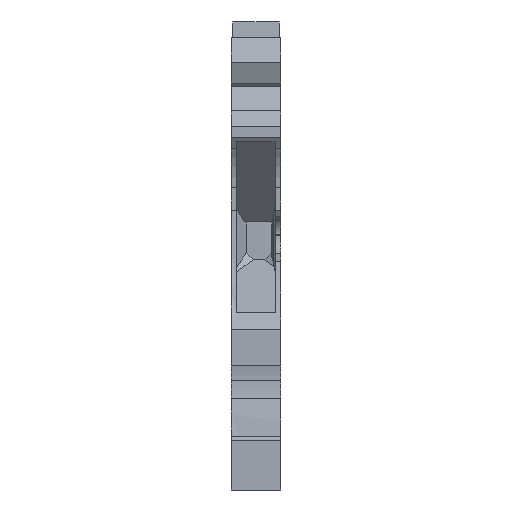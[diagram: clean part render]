
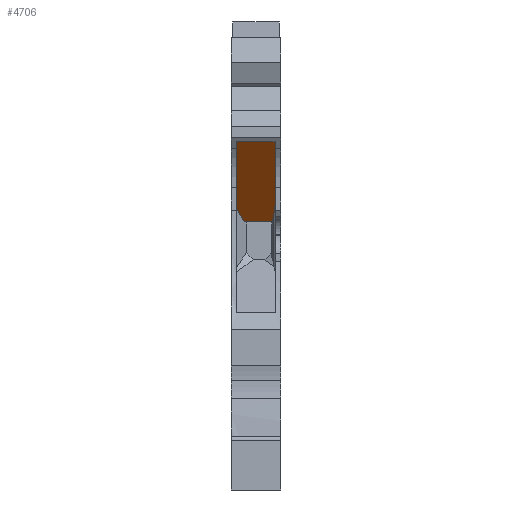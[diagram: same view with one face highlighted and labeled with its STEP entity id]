
A CAD part, front view. The second image highlights one B-rep face of the part: STEP entity #4706.
In plain terms, the highlighted planar face has unit normal (0, -0.715, -0.699).
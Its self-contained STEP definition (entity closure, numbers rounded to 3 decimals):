
#1808=CARTESIAN_POINT('',(4.2,2.485,36.066));
#1809=VERTEX_POINT('',#1808);
#1818=CARTESIAN_POINT('',(4.6,2.485,36.066));
#1819=VERTEX_POINT('',#1818);
#1820=CARTESIAN_POINT('',(4.2,2.485,36.066));
#1821=DIRECTION('',(1.,-0.,0.));
#1822=VECTOR('',#1821,0.4);
#1823=LINE('',#1820,#1822);
#1824=EDGE_CURVE('',#1809,#1819,#1823,.T.);
#1895=CARTESIAN_POINT('',(4.214,10.612,27.75));
#1896=VERTEX_POINT('',#1895);
#1897=CARTESIAN_POINT('',(4.4,10.123,28.251));
#1898=VERTEX_POINT('',#1897);
#1899=CARTESIAN_POINT('',(4.214,10.612,27.75));
#1900=DIRECTION('',(0.256,-0.676,0.691));
#1901=VECTOR('',#1900,0.725);
#1902=LINE('',#1899,#1901);
#1903=EDGE_CURVE('',#1896,#1898,#1902,.T.);
#2378=CARTESIAN_POINT('',(0.55,9.256,29.137));
#2379=VERTEX_POINT('',#2378);
#2386=CARTESIAN_POINT('',(0.55,2.485,36.066));
#2387=VERTEX_POINT('',#2386);
#2388=CARTESIAN_POINT('',(0.55,2.485,36.066));
#2389=DIRECTION('',(0.,0.699,-0.715));
#2390=VECTOR('',#2389,9.689);
#2391=LINE('',#2388,#2390);
#2392=EDGE_CURVE('',#2387,#2379,#2391,.T.);
#2547=CARTESIAN_POINT('',(1.6,2.485,36.066));
#2548=VERTEX_POINT('',#2547);
#2549=CARTESIAN_POINT('',(0.55,2.485,36.066));
#2550=DIRECTION('',(1.,-0.,0.));
#2551=VECTOR('',#2550,1.05);
#2552=LINE('',#2549,#2551);
#2553=EDGE_CURVE('',#2387,#2548,#2552,.T.);
#2633=CARTESIAN_POINT('',(4.2,2.428,36.125));
#2634=VERTEX_POINT('',#2633);
#2635=CARTESIAN_POINT('',(4.2,2.485,36.066));
#2636=DIRECTION('',(-0.,-0.699,0.715));
#2637=VECTOR('',#2636,0.082);
#2638=LINE('',#2635,#2637);
#2639=EDGE_CURVE('',#1809,#2634,#2638,.T.);
#2832=CARTESIAN_POINT('',(1.333,10.612,27.75));
#2833=VERTEX_POINT('',#2832);
#2834=CARTESIAN_POINT('',(4.214,10.612,27.75));
#2835=DIRECTION('',(-1.,0.,-0.));
#2836=VECTOR('',#2835,2.882);
#2837=LINE('',#2834,#2836);
#2838=EDGE_CURVE('',#1896,#2833,#2837,.T.);
#3014=CARTESIAN_POINT('',(4.6,8.5,29.911));
#3015=VERTEX_POINT('',#3014);
#3016=CARTESIAN_POINT('',(4.6,8.5,29.911));
#3017=DIRECTION('',(-0.,-0.699,0.715));
#3018=VECTOR('',#3017,8.606);
#3019=LINE('',#3016,#3018);
#3020=EDGE_CURVE('',#3015,#1819,#3019,.T.);
#3280=CARTESIAN_POINT('',(1.6,2.428,36.125));
#3281=VERTEX_POINT('',#3280);
#3288=CARTESIAN_POINT('',(1.6,2.428,36.125));
#3289=DIRECTION('',(1.,0.,0.));
#3290=VECTOR('',#3289,2.6);
#3291=LINE('',#3288,#3290);
#3292=EDGE_CURVE('',#3281,#2634,#3291,.T.);
#3436=CARTESIAN_POINT('',(4.4,10.123,28.251));
#3437=DIRECTION('',(0.086,-0.696,0.713));
#3438=VECTOR('',#3437,2.33);
#3439=LINE('',#3436,#3438);
#3440=EDGE_CURVE('',#1898,#3015,#3439,.T.);
#4678=CARTESIAN_POINT('',(-1.109,10.25,28.12));
#4679=DIRECTION('',(0.,-0.715,-0.699));
#4680=DIRECTION('',(-0.,-0.699,0.715));
#4681=AXIS2_PLACEMENT_3D('',#4678,#4679,#4680);
#4682=PLANE('',#4681);
#4683=ORIENTED_EDGE('',*,*,#2553,.F.);
#4684=ORIENTED_EDGE('',*,*,#2392,.T.);
#4685=CARTESIAN_POINT('',(0.55,9.256,29.137));
#4686=DIRECTION('',(0.374,0.648,-0.663));
#4687=VECTOR('',#4686,2.092);
#4688=LINE('',#4685,#4687);
#4689=EDGE_CURVE('',#2379,#2833,#4688,.T.);
#4690=ORIENTED_EDGE('',*,*,#4689,.T.);
#4691=ORIENTED_EDGE('',*,*,#2838,.F.);
#4692=ORIENTED_EDGE('',*,*,#1903,.T.);
#4693=ORIENTED_EDGE('',*,*,#3440,.T.);
#4694=ORIENTED_EDGE('',*,*,#3020,.T.);
#4695=ORIENTED_EDGE('',*,*,#1824,.F.);
#4696=ORIENTED_EDGE('',*,*,#2639,.T.);
#4697=ORIENTED_EDGE('',*,*,#3292,.F.);
#4698=CARTESIAN_POINT('',(1.6,2.428,36.125));
#4699=DIRECTION('',(0.,0.699,-0.715));
#4700=VECTOR('',#4699,0.082);
#4701=LINE('',#4698,#4700);
#4702=EDGE_CURVE('',#3281,#2548,#4701,.T.);
#4703=ORIENTED_EDGE('',*,*,#4702,.T.);
#4704=EDGE_LOOP('',(#4683,#4684,#4690,#4691,#4692,#4693,#4694,#4695,#4696,#4697,#4703));
#4705=FACE_BOUND('',#4704,.T.);
#4706=ADVANCED_FACE('',(#4705),#4682,.T.);
